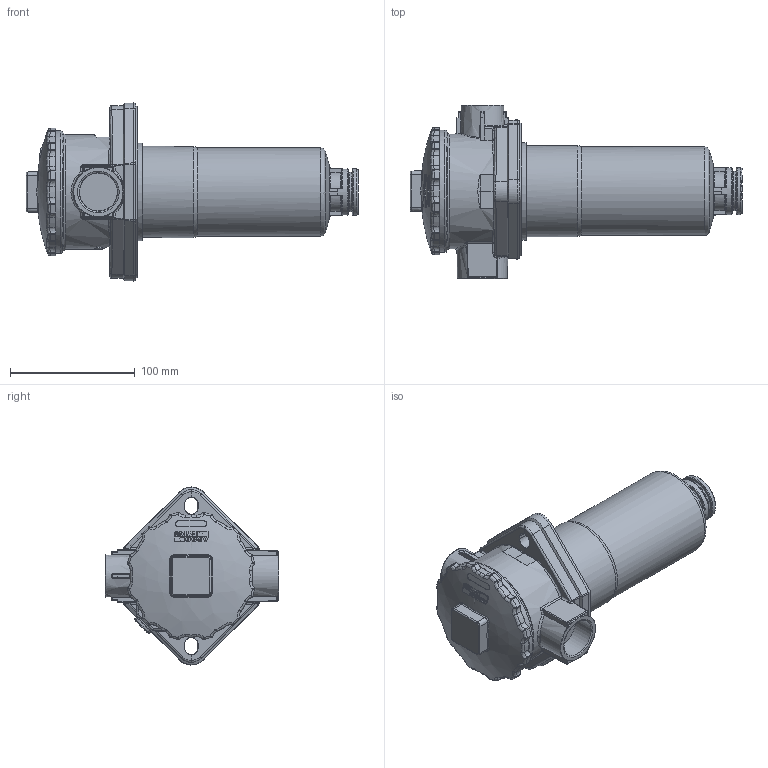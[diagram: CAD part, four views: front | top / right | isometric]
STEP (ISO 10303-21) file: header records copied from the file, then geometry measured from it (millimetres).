
FILE_DESCRIPTION((''),'2;1');
FILE_NAME('U:\Users\r.stiegele\13666900(235308).stp', '2014-02-26T15:10:32',('User'),('SDRC'),'I-DEAS Master Series 9','UNIX', 'Yes');
FILE_SCHEMA(('AUTOMOTIVE_DESIGN { 1 0 10303 214 1 1 1 1 }'));
Length unit declared in the file: millimetre
Products named in the file (1): 13666900(235308)
Bounding box: 266 x 139 x 142.65 mm (x, y, z)
Volume: 1242852.4 mm3; surface area: 112365.2 mm2
Topology: 3 solids, 5 shells, 1062 faces, 2773 edges, 1701 vertices
Faces by surface type: bspline 1062
Entity records: 38165 total; most frequent: CARTESIAN_POINT 22550, ORIENTED_EDGE 5464, EDGE_CURVE 2732, VERTEX_POINT 1700, B_SPLINE_CURVE_WITH_KNOTS 1612, EDGE_LOOP 1092, FACE_OUTER_BOUND 1062, ADVANCED_FACE 1062
